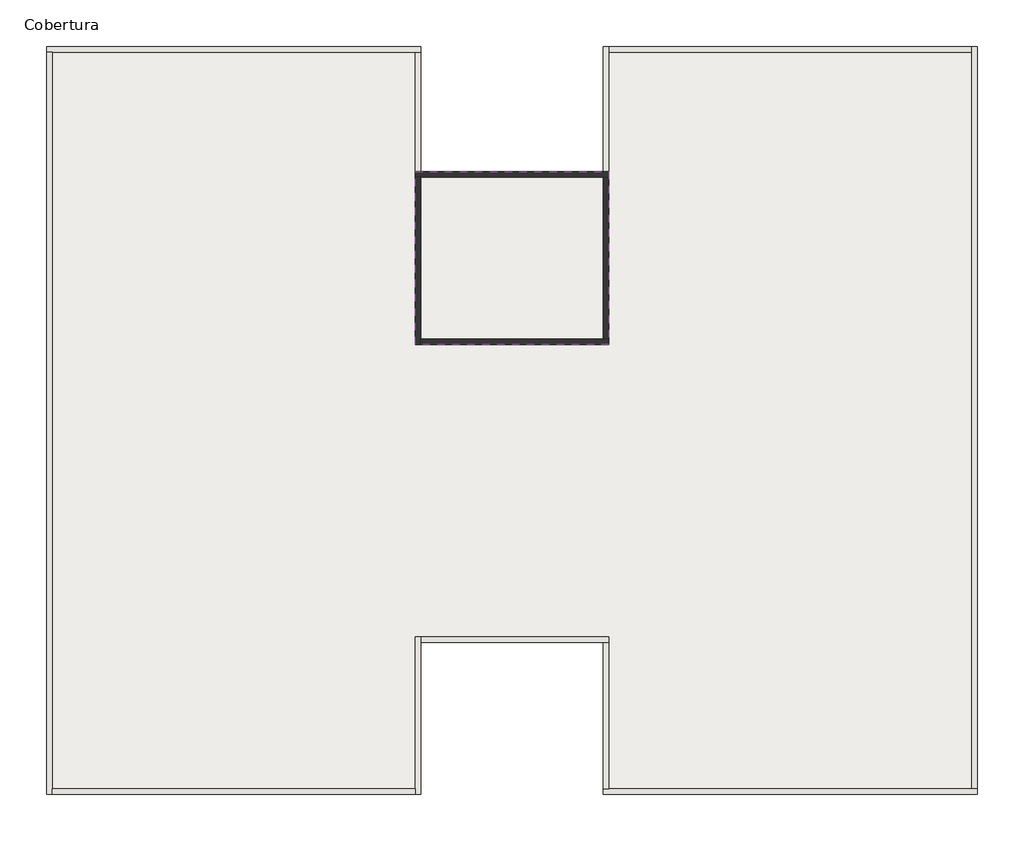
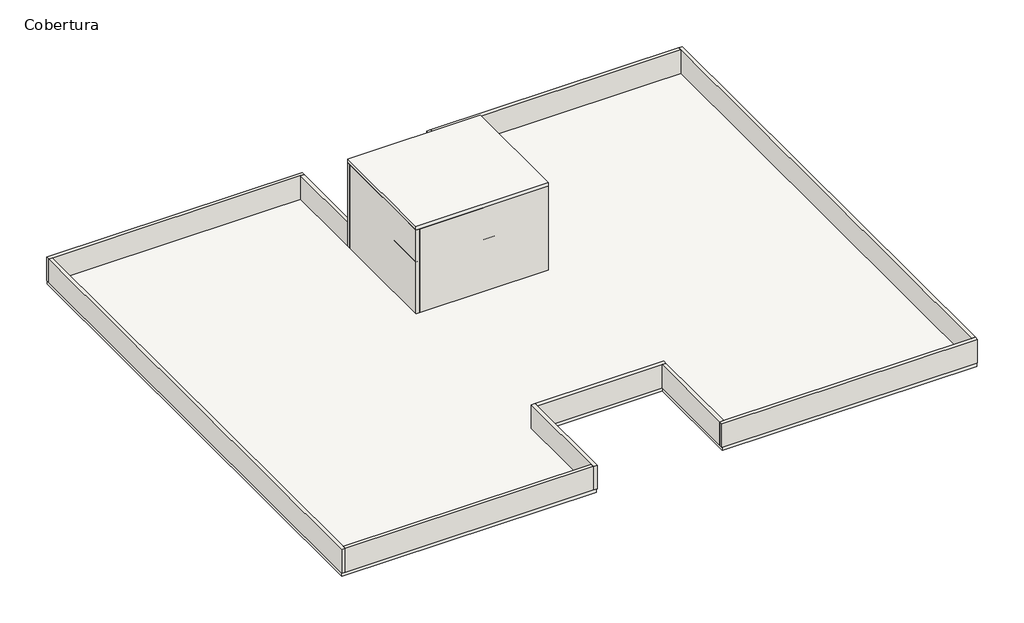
# One storey: 15 walls, 3 slabs.
"""IFC4 building model written with IfcOpenShell, lengths in millimetres."""

from ifc_helpers import new_model, si_unit, frame, origin, place, context, project, spatial, polyline, outline, extrude, faceted_brep, element, save

model = new_model("IFC4")

# Units and contexts
model_context = context("Model", 3, world=origin())
ifc_project = project(units=[si_unit("LENGTHUNIT", "METRE", prefix="MILLI")], contexts=[model_context])

# Site, building, storey
site = spatial("IfcSite", under=ifc_project)
building = spatial("IfcBuilding", under=site)
storey = spatial("IfcBuildingStorey", under=building, Name="Cobertura", Elevation=12150.0)

# Slabs
placement = place(None, origin())
element("IfcSlab", 1, ObjectType="_Laje 15cm", at=placement, inside=storey, context=model_context, shape_type="SweptSolid", body=[
    extrude(outline(polyline([(21375.0, 19299.2009656), (21375.0, 14575.0), (16075.0, 14575.0), (16075.0, 19299.2009656), (21375.0, 19299.2009656)])), frame((0.0, 0.0, 14200.0), z_axis=(0.0, 0.0, 1.0), x_axis=(1.0, 0.0, 0.0)), (0.0, 0.0, 1.0), 150.0),
])
element("IfcSlab", 2, ObjectType="_Laje 15cm", at=placement, inside=storey, context=model_context, shape_type="SweptSolid", body=[
    extrude(outline(polyline([(21375.0, 19299.2009656), (21375.0, 14575.0), (16075.0, 14575.0), (16075.0, 19299.2009656), (21375.0, 19299.2009656)])), frame((0.0, 0.0, 15700.0), z_axis=(0.0, 0.0, 1.0), x_axis=(1.0, 0.0, 0.0)), (0.0, 0.0, 1.0), 150.0),
])
element("IfcSlab", 3, ObjectType="_Laje 15cm", at=placement, inside=storey, context=model_context, shape_type="SweptSolid", body=[
    extrude(outline(polyline([(16205.0, 22705.0), (16205.0, 19279.2009656), (21245.0, 19279.2009656), (21245.0, 22705.0), (31430.0, 22705.0), (31430.0, 2295.0), (21245.0, 2295.0), (21245.0, 6445.0), (16205.0, 6445.0), (16205.0, 2295.0), (6020.0, 2295.0), (6020.0, 22705.0), (16205.0, 22705.0)])), frame((0.0, 0.0, 12000.0), z_axis=(0.0, 0.0, 1.0), x_axis=(1.0, 0.0, 0.0)), (0.0, 0.0, 1.0), 150.0),
])

# Walls
element("IfcWall", 4, ObjectType="M_Parede Normal - 15cm - Externa", at=placement, inside=storey, context=model_context, shape_type="Brep", body=[
    faceted_brep([(6000.0, 22575.0, 12150.0), (6150.0, 22575.0, 12150.0), (16075.0, 22575.0, 12150.0), (16225.0, 22575.0, 12150.0), (16225.0, 22575.0, 13150.0), (16075.0, 22575.0, 13150.0), (6150.0, 22575.0, 13150.0), (6000.0, 22575.0, 13150.0), (6000.0, 22725.0, 12150.0), (6000.0, 22725.0, 13150.0), (16225.0, 22725.0, 13150.0), (16225.0, 22725.0, 12150.0)], [[[0, 1, 2, 3, 4, 5, 6, 7]], [[8, 9, 10, 11]], [[3, 2, 1, 0, 8, 11]], [[7, 6, 5, 4, 10, 9]], [[0, 7, 9, 8]], [[4, 3, 11, 10]]]),
])
element("IfcWall", 5, ObjectType="M_Parede Normal - 15cm - Externa", at=placement, inside=storey, context=model_context, shape_type="Brep", body=[
    faceted_brep([(6150.0, 2275.0, 12150.0), (6150.0, 2425.0, 12150.0), (6150.0, 22575.0, 12150.0), (6150.0, 22575.0, 13150.0), (6150.0, 2425.0, 13150.0), (6150.0, 2275.0, 13150.0), (6000.0, 2275.0, 12150.0), (6000.0, 2275.0, 13150.0), (6000.0, 22575.0, 13150.0), (6000.0, 22575.0, 12150.0)], [[[0, 1, 2, 3, 4, 5]], [[6, 7, 8, 9]], [[2, 1, 0, 6, 9]], [[5, 4, 3, 8, 7]], [[0, 5, 7, 6]], [[3, 2, 9, 8]]]),
])
element("IfcWall", 6, ObjectType="M_Parede Normal - 15cm - Externa", at=placement, inside=storey, context=model_context, shape_type="Brep", body=[
    faceted_brep([(31450.0, 2425.0, 12150.0), (31300.0, 2425.0, 12150.0), (21375.0, 2425.0, 12150.0), (21225.0, 2425.0, 12150.0), (21225.0, 2425.0, 13150.0), (21375.0, 2425.0, 13150.0), (31300.0, 2425.0, 13150.0), (31450.0, 2425.0, 13150.0), (31450.0, 2275.0, 12150.0), (31450.0, 2275.0, 13150.0), (21225.0, 2275.0, 13150.0), (21225.0, 2275.0, 12150.0)], [[[0, 1, 2, 3, 4, 5, 6, 7]], [[8, 9, 10, 11]], [[3, 2, 1, 0, 8, 11]], [[7, 6, 5, 4, 10, 9]], [[0, 7, 9, 8]], [[4, 3, 11, 10]]]),
])
element("IfcWall", 7, ObjectType="M_Parede Normal - 15cm - Externa", at=placement, inside=storey, context=model_context, shape_type="Brep", body=[
    faceted_brep([(31300.0, 22725.0, 12150.0), (31300.0, 22575.0, 12150.0), (31300.0, 2425.0, 12150.0), (31300.0, 2425.0, 13150.0), (31300.0, 22575.0, 13150.0), (31300.0, 22725.0, 13150.0), (31450.0, 22725.0, 12150.0), (31450.0, 22725.0, 13150.0), (31450.0, 2425.0, 13150.0), (31450.0, 2425.0, 12150.0)], [[[0, 1, 2, 3, 4, 5]], [[6, 7, 8, 9]], [[2, 1, 0, 6, 9]], [[5, 4, 3, 8, 7]], [[0, 5, 7, 6]], [[3, 2, 9, 8]]]),
])
element("IfcWall", 8, ObjectType="M_Parede Normal - 15cm - Externa", at=placement, inside=storey, context=model_context, shape_type="SweptSolid", body=[
    extrude(outline(polyline([(16075.0, 19299.2009656), (16075.0, 22575.0), (16225.0, 22575.0), (16225.0, 19299.2009656), (16075.0, 19299.2009656)])), frame((0.0, 0.0, 12150.0), z_axis=(0.0, 0.0, 1.0), x_axis=(1.0, 0.0, 0.0)), (0.0, 0.0, 1.0), 1000.0),
])
element("IfcWall", 9, ObjectType="M_Parede Normal - 15cm - Externa", at=placement, inside=storey, context=model_context, shape_type="Brep", body=[
    faceted_brep([(16075.0, 19149.2009656, 15700.0), (16075.0, 19149.2009656, 12150.0), (16225.0, 19149.2009656, 12150.0), (21225.0, 19149.2009656, 12150.0), (21375.0, 19149.2009656, 12150.0), (21375.0, 19149.2009656, 15700.0), (21225.0, 19149.2009656, 15700.0), (16225.0, 19149.2009656, 15700.0), (16075.0, 19299.2009656, 12150.0), (16075.0, 19299.2009656, 13150.0), (16075.0, 19299.2009656, 15700.0), (21375.0, 19299.2009656, 15700.0), (21375.0, 19299.2009656, 13150.0), (21375.0, 19299.2009656, 12150.0), (21225.0, 19299.2009656, 12150.0), (16225.0, 19299.2009656, 12150.0)], [[[0, 1, 2, 3, 4, 5, 6, 7]], [[8, 9, 10, 11, 12, 13, 14, 15]], [[4, 3, 2, 1, 8, 15, 14, 13]], [[0, 10, 9, 8, 1]], [[4, 13, 12, 11, 5]], [[0, 7, 6, 5, 11, 10]]]),
])
element("IfcWall", 10, ObjectType="M_Parede Normal - 15cm - Externa", at=placement, inside=storey, context=model_context, shape_type="SweptSolid", body=[
    extrude(outline(polyline([(31300.0, 22575.0), (21375.0, 22575.0), (21375.0, 22725.0), (31300.0, 22725.0), (31300.0, 22575.0)])), frame((0.0, 0.0, 12150.0), z_axis=(0.0, 0.0, 1.0), x_axis=(1.0, 0.0, 0.0)), (0.0, 0.0, 1.0), 1000.0),
])
element("IfcWall", 11, ObjectType="M_Parede Normal - 15cm - Externa", at=placement, inside=storey, context=model_context, shape_type="Brep", body=[
    faceted_brep([(16225.0, 2275.0, 12150.0), (16225.0, 6425.0, 12150.0), (16225.0, 6575.0, 12150.0), (16225.0, 6575.0, 13150.0), (16225.0, 6425.0, 13150.0), (16225.0, 2275.0, 13150.0), (16075.0, 2275.0, 12150.0), (16075.0, 2275.0, 13150.0), (16075.0, 2425.0, 13150.0), (16075.0, 6575.0, 13150.0), (16075.0, 6575.0, 12150.0), (16075.0, 2425.0, 12150.0)], [[[0, 1, 2, 3, 4, 5]], [[6, 7, 8, 9, 10, 11]], [[2, 1, 0, 6, 11, 10]], [[5, 4, 3, 9, 8, 7]], [[3, 2, 10, 9]], [[0, 5, 7, 6]]]),
])
element("IfcWall", 12, ObjectType="M_Parede Normal - 15cm - Externa", at=placement, inside=storey, context=model_context, shape_type="Brep", body=[
    faceted_brep([(16225.0, 6425.0, 12150.0), (21225.0, 6425.0, 12150.0), (21375.0, 6425.0, 12150.0), (21375.0, 6425.0, 13150.0), (21225.0, 6425.0, 13150.0), (16225.0, 6425.0, 13150.0), (16225.0, 6575.0, 12150.0), (16225.0, 6575.0, 13150.0), (21375.0, 6575.0, 13150.0), (21375.0, 6575.0, 12150.0)], [[[0, 1, 2, 3, 4, 5]], [[6, 7, 8, 9]], [[2, 1, 0, 6, 9]], [[5, 4, 3, 8, 7]], [[0, 5, 7, 6]], [[3, 2, 9, 8]]]),
])
element("IfcWall", 13, ObjectType="M_Parede Normal - 15cm - Externa", at=placement, inside=storey, context=model_context, shape_type="SweptSolid", body=[
    extrude(outline(polyline([(21225.0, 2425.0), (21225.0, 6425.0), (21375.0, 6425.0), (21375.0, 2425.0), (21225.0, 2425.0)])), frame((0.0, 0.0, 12150.0), z_axis=(0.0, 0.0, 1.0), x_axis=(1.0, 0.0, 0.0)), (0.0, 0.0, 1.0), 1000.0),
])
element("IfcWall", 14, ObjectType="M_Parede Normal - 15cm - Externa", at=placement, inside=storey, context=model_context, shape_type="SweptSolid", body=[
    extrude(outline(polyline([(6150.0, 2425.0), (16075.0, 2425.0), (16075.0, 2275.0), (6150.0, 2275.0), (6150.0, 2425.0)])), frame((0.0, 0.0, 12150.0), z_axis=(0.0, 0.0, 1.0), x_axis=(1.0, 0.0, 0.0)), (0.0, 0.0, 1.0), 1000.0),
])
element("IfcWall", 15, ObjectType="M_Parede Normal - 15cm - Externa", at=placement, inside=storey, context=model_context, shape_type="Brep", body=[
    faceted_brep([(21375.0, 19299.2009656, 12150.0), (21375.0, 22575.0, 12150.0), (21375.0, 22725.0, 12150.0), (21375.0, 22725.0, 13150.0), (21375.0, 22575.0, 13150.0), (21375.0, 19299.2009656, 13150.0), (21225.0, 19299.2009656, 12150.0), (21225.0, 19299.2009656, 13150.0), (21225.0, 22725.0, 13150.0), (21225.0, 22725.0, 12150.0)], [[[0, 1, 2, 3, 4, 5]], [[6, 7, 8, 9]], [[2, 1, 0, 6, 9]], [[5, 4, 3, 8, 7]], [[3, 2, 9, 8]], [[0, 5, 7, 6]]]),
])
element("IfcWall", 16, ObjectType="M_Parede Normal - 15cm - Interna", at=placement, inside=storey, context=model_context, shape_type="Brep", body=[
    faceted_brep([(16225.0, 14575.0, 12150.0), (21375.0, 14575.0, 12150.0), (21375.0, 14575.0, 15700.0), (16225.0, 14575.0, 15700.0), (16225.0, 14725.0, 12150.0), (16225.0, 14725.0, 15700.0), (21225.0, 14725.0, 15700.0), (21375.0, 14725.0, 15700.0), (21375.0, 14725.0, 12150.0), (21225.0, 14725.0, 12150.0)], [[[0, 1, 2, 3]], [[4, 5, 6, 7, 8, 9]], [[1, 0, 4, 9, 8]], [[0, 3, 5, 4]], [[2, 1, 8, 7]], [[3, 2, 7, 6, 5]]]),
])
element("IfcWall", 17, ObjectType="M_Parede Normal - 15cm - Interna", at=placement, inside=storey, context=model_context, shape_type="SweptSolid", body=[
    extrude(outline(polyline([(21375.0, 19149.2009656), (21375.0, 14725.0), (21225.0, 14725.0), (21225.0, 19149.2009656), (21375.0, 19149.2009656)])), frame((0.0, 0.0, 12150.0), z_axis=(0.0, 0.0, 1.0), x_axis=(1.0, 0.0, 0.0)), (0.0, 0.0, 1.0), 3550.0),
])
element("IfcWall", 18, ObjectType="M_Parede Normal - 15cm - Interna", at=placement, inside=storey, context=model_context, shape_type="Brep", body=[
    faceted_brep([(16075.0, 19149.2009656, 12150.0), (16075.0, 14575.0, 12150.0), (16075.0, 14575.0, 15700.0), (16075.0, 19149.2009656, 15700.0), (16225.0, 19149.2009656, 12150.0), (16225.0, 19149.2009656, 15700.0), (16225.0, 14725.0, 15700.0), (16225.0, 14575.0, 15700.0), (16225.0, 14575.0, 12150.0), (16225.0, 14725.0, 12150.0)], [[[0, 1, 2, 3]], [[4, 5, 6, 7, 8, 9]], [[1, 0, 4, 9, 8]], [[2, 1, 8, 7]], [[0, 3, 5, 4]], [[3, 2, 7, 6, 5]]]),
])

save(model, "model.ifc")
